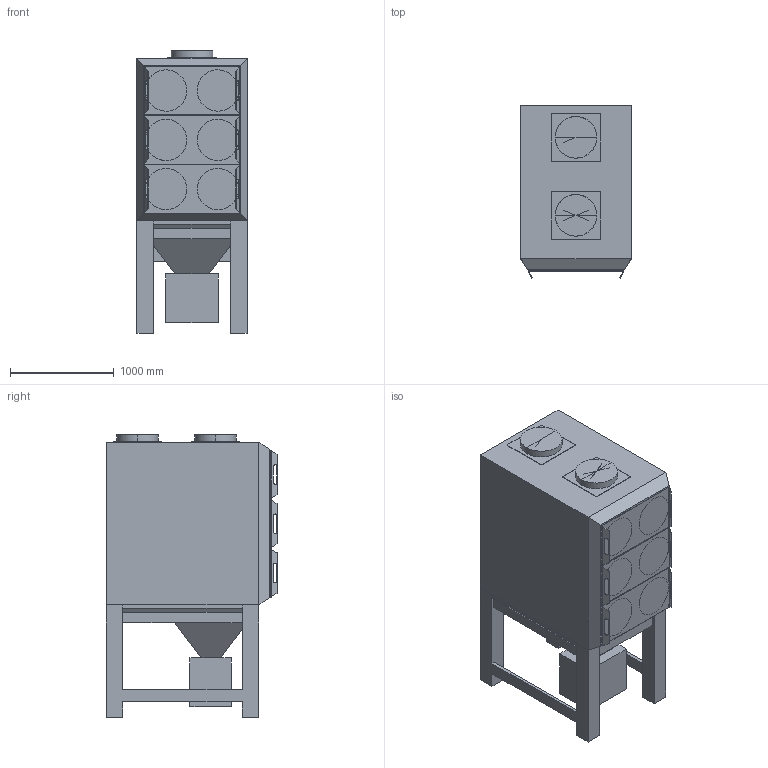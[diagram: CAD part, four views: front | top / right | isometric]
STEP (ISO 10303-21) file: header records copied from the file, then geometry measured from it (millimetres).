
FILE_DESCRIPTION(/* description */ ('Generated from Alias Stage'),/* implementation_level */ '2;1');
FILE_NAME(/* name */ 'CFE6 A',/* time_stamp */ '2016-11-30T08:17:45+01:00',/* author */ (''),/* organization */ ('Autodesk Alias'),/* preprocessor_version */ 'ST-DEVELOPER v11',/* originating_system */ 'Autodesk OpenModel 2016',/* authorisation */ '');
FILE_SCHEMA (('AUTOMOTIVE_DESIGN { 1 2 10303 214 1 1 1 1 }'));
Length unit declared in the file: millimetre
Products named in the file (1): CFE6 A
Bounding box: 1060 x 1654.68 x 2721.07 mm (x, y, z)
Volume: 2973971799.4 mm3; surface area: 19323478.2 mm2
Topology: 1 solids, 1 shells, 244 faces, 662 edges, 425 vertices
Faces by surface type: bspline 244
Entity records: 13379 total; most frequent: CARTESIAN_POINT 10163, ORIENTED_EDGE 1316, EDGE_CURVE 658, VERTEX_POINT 425, EDGE_LOOP 275, FACE_OUTER_BOUND 244, ADVANCED_FACE 244, FACE_BOUND 31
